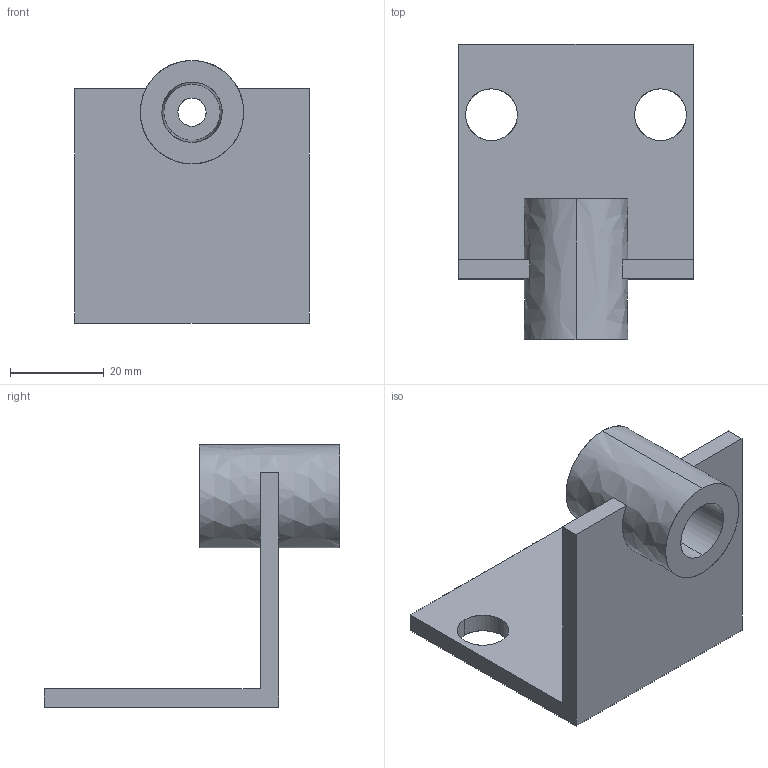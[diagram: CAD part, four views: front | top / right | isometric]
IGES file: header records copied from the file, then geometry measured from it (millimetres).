
Global section: file name: E:\UnigraphicsGraphicData\MISUMI_PRESS-PARTS\IGES\3d_tahk-a-1_01840_r00.igs; native system: NX V5.0; preprocessor: UGS NX IGES V5.0; author: MISUMI; date: 20110105.163347; units: millimetre
Bounding box: 50 x 63 x 56 mm (x, y, z)
Surface area: 13479.1 mm2 (no closed solid volume)
Topology: 0 solids, 0 shells, 26 faces, 210 edges, 210 vertices
Faces by surface type: bspline 26
